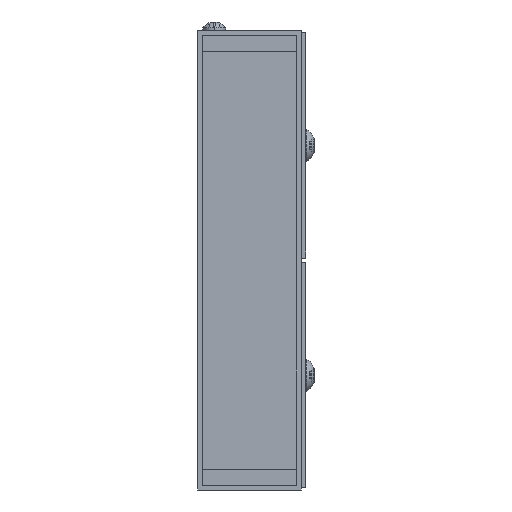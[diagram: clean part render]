
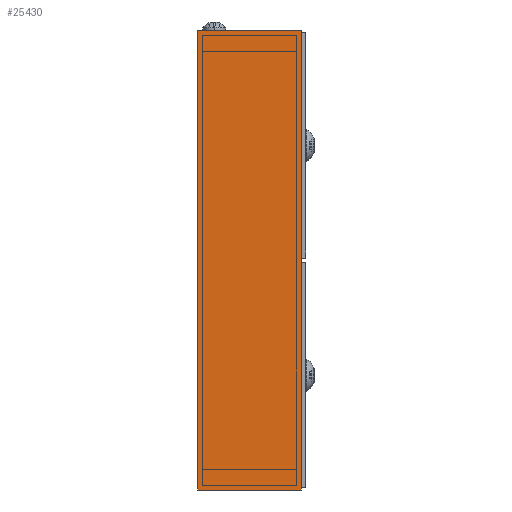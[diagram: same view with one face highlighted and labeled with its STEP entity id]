
A CAD part, left-side view. The second image highlights one B-rep face of the part: STEP entity #25430.
In plain terms, the highlighted planar face has unit normal (-1, 0, 0).
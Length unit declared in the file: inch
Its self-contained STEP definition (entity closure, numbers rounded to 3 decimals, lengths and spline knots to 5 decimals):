
#24295=DIRECTION('',(0.,0.,-1.));
#24296=VECTOR('',#24295,7.87402);
#24297=CARTESIAN_POINT('',(-19.64567,-11.20079,
5.90551));
#24298=LINE('',#24297,#24296);
#24355=DIRECTION('',(0.,1.,0.));
#24356=VECTOR('',#24355,1.77165);
#24357=CARTESIAN_POINT('',(-19.64567,-11.20079,
-1.9685));
#24358=LINE('',#24357,#24356);
#24383=DIRECTION('',(0.,-1.,0.));
#24384=VECTOR('',#24383,1.77165);
#24385=CARTESIAN_POINT('',(-19.64567,-9.42913,
5.90551));
#24386=LINE('',#24385,#24384);
#24411=DIRECTION('',(0.,0.,1.));
#24412=VECTOR('',#24411,7.87402);
#24413=CARTESIAN_POINT('',(-19.64567,-9.42913,
-1.9685));
#24414=LINE('',#24413,#24412);
#24863=CARTESIAN_POINT('',(-19.64567,-11.20079,
-1.9685));
#24865=VERTEX_POINT('',#24863);
#24883=CARTESIAN_POINT('',(-19.64567,-9.42913,
-1.9685));
#24884=VERTEX_POINT('',#24883);
#25002=CARTESIAN_POINT('',(-19.64567,-11.20079,
5.90551));
#25004=VERTEX_POINT('',#25002);
#25017=CARTESIAN_POINT('',(-19.64567,-9.42913,
5.90551));
#25018=VERTEX_POINT('',#25017);
#25416=CARTESIAN_POINT('',(-19.64567,-9.42913,
1.9685));
#25417=DIRECTION('',(-1.,0.,0.));
#25418=DIRECTION('',(0.,-1.,0.));
#25419=AXIS2_PLACEMENT_3D('',#25416,#25417,#25418);
#25420=PLANE('',#25419);
#25422=ORIENTED_EDGE('',*,*,#25421,.T.);
#25424=ORIENTED_EDGE('',*,*,#25423,.T.);
#25426=ORIENTED_EDGE('',*,*,#25425,.T.);
#25427=ORIENTED_EDGE('',*,*,#25352,.T.);
#25428=EDGE_LOOP('',(#25422,#25424,#25426,#25427));
#25429=FACE_OUTER_BOUND('',#25428,.F.);
#25352=EDGE_CURVE('',#25004,#24865,#24298,.T.);
#25421=EDGE_CURVE('',#24865,#24884,#24358,.T.);
#25423=EDGE_CURVE('',#24884,#25018,#24414,.T.);
#25425=EDGE_CURVE('',#25018,#25004,#24386,.T.);
#25430=ADVANCED_FACE('',(#25429),#25420,.T.);
